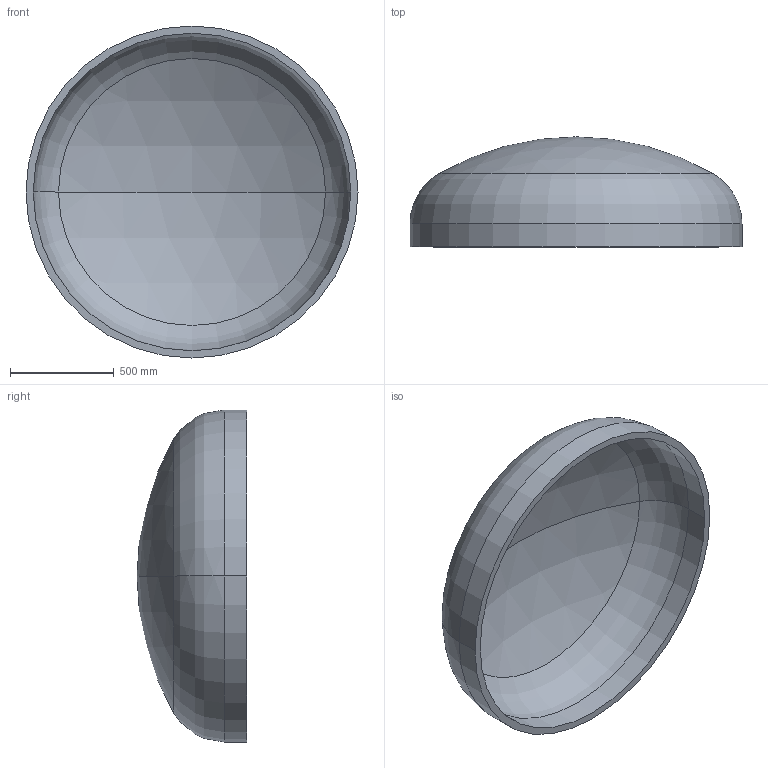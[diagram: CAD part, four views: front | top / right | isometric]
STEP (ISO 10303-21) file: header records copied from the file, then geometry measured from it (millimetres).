
FILE_DESCRIPTION (( 'STEP AP203' ), '1' );
FILE_NAME ('DIN 28013 Korbbogenform_-_Boden DIN 28013 - 1600 x 110 - I - s=35.step', '2016-07-01T11:13:48', ( '' ), ( '' ), 'SwSTEP 2.0', 'SolidWorks 2013', '' );
FILE_SCHEMA (( 'CONFIG_CONTROL_DESIGN' ));
Length unit declared in the file: millimetre
Products named in the file (1): DIN 28013 Korbbogenform_-_Boden DIN 28013 - 1600 x 110 - I - s=35
Bounding box: 1600 x 530.11 x 1600 mm (x, y, z)
Volume: 113522460.9 mm3; surface area: 6661642.1 mm2
Topology: 1 solids, 1 shells, 13 faces, 24 edges, 14 vertices
Faces by surface type: torus 4, cylinder 4, sphere 4, plane 1
Entity records: 407 total; most frequent: DIRECTION 72, CARTESIAN_POINT 52, ORIENTED_EDGE 48, AXIS2_PLACEMENT_3D 34, EDGE_CURVE 24, CIRCLE 20, EDGE_LOOP 14, VERTEX_POINT 14
